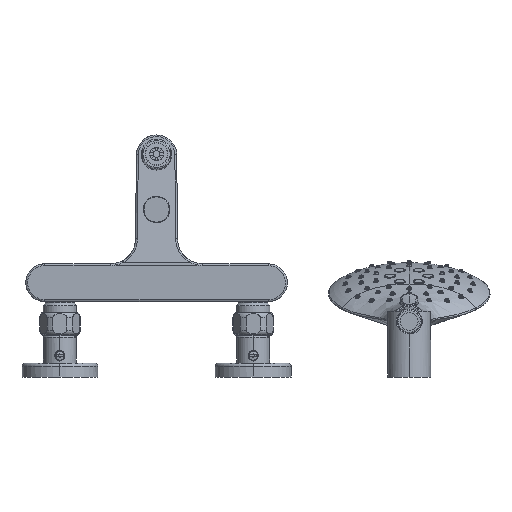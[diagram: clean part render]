
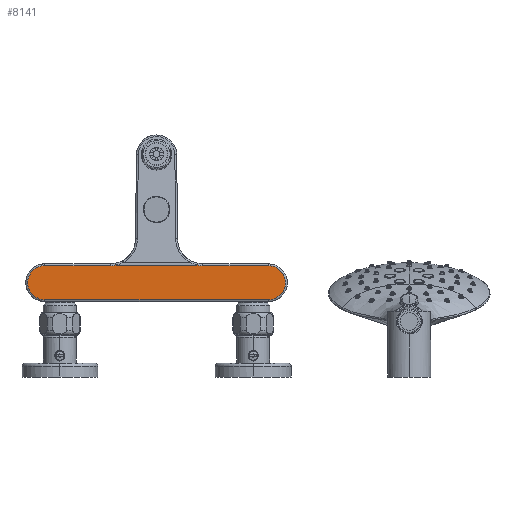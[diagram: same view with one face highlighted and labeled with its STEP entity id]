
A CAD part, front view. The second image highlights one B-rep face of the part: STEP entity #8141.
In plain terms, the highlighted planar face has unit normal (0, -1, 0).
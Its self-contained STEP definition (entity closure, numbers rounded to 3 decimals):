
#1288=CARTESIAN_POINT('',(88.5,-19.,-6.));
#1289=DIRECTION('',(0.,1.,0.));
#1290=DIRECTION('',(0.,0.,1.));
#1291=AXIS2_PLACEMENT_3D('',#1288,#1289,#1290);
#1293=CARTESIAN_POINT('',(88.5,-19.,-6.));
#1294=DIRECTION('',(0.,1.,0.));
#1295=DIRECTION('',(0.037,0.,0.999));
#1296=AXIS2_PLACEMENT_3D('',#1293,#1294,#1295);
#1298=CARTESIAN_POINT('',(-88.5,-19.,-6.));
#1299=DIRECTION('',(0.,1.,0.));
#1300=DIRECTION('',(0.,0.,-1.));
#1301=AXIS2_PLACEMENT_3D('',#1298,#1299,#1300);
#1303=CARTESIAN_POINT('',(-88.5,-19.,-6.));
#1304=DIRECTION('',(0.,1.,0.));
#1305=DIRECTION('',(-0.037,0.,-0.999));
#1306=AXIS2_PLACEMENT_3D('',#1303,#1304,#1305);
#1308=CARTESIAN_POINT('',(-36.578,-19.,29.));
#1309=DIRECTION('',(0.,-1.,0.));
#1310=DIRECTION('',(0.,0.,-1.));
#1311=AXIS2_PLACEMENT_3D('',#1308,#1309,#1310);
#1313=CARTESIAN_POINT('',(36.578,-19.,29.));
#1314=DIRECTION('',(0.,-1.,0.));
#1315=DIRECTION('',(-0.215,0.,-0.977));
#1316=AXIS2_PLACEMENT_3D('',#1313,#1314,#1315);
#1318=DIRECTION('',(1.,0.,0.));
#1319=VECTOR('',#1318,177.);
#1320=CARTESIAN_POINT('',(-88.5,-19.,-19.5));
#1321=LINE('',#1320,#1319);
#1458=DIRECTION('',(-1.,0.,0.));
#1459=VECTOR('',#1458,51.922);
#1460=CARTESIAN_POINT('',(88.5,-19.,7.5));
#1461=LINE('',#1460,#1459);
#1488=DIRECTION('',(-1.,0.,0.));
#1489=VECTOR('',#1488,63.891);
#1490=CARTESIAN_POINT('',(31.946,-19.,8.005));
#1491=LINE('',#1490,#1489);
#1524=DIRECTION('',(-1.,0.,0.));
#1525=VECTOR('',#1524,51.922);
#1526=CARTESIAN_POINT('',(-36.578,-19.,7.5));
#1527=LINE('',#1526,#1525);
#5376=CARTESIAN_POINT('',(89.001,-19.,7.491));
#5377=CARTESIAN_POINT('',(88.5,-19.,-19.5));
#5378=VERTEX_POINT('',#5376);
#5379=VERTEX_POINT('',#5377);
#5380=CARTESIAN_POINT('',(88.5,-19.,7.5));
#5381=VERTEX_POINT('',#5380);
#5382=CARTESIAN_POINT('',(-88.5,-19.,-19.5));
#5383=VERTEX_POINT('',#5382);
#5384=CARTESIAN_POINT('',(-89.001,-19.,-19.491));
#5385=CARTESIAN_POINT('',(-88.5,-19.,7.5));
#5386=VERTEX_POINT('',#5384);
#5387=VERTEX_POINT('',#5385);
#5388=CARTESIAN_POINT('',(-36.578,-19.,7.5));
#5389=VERTEX_POINT('',#5388);
#5390=CARTESIAN_POINT('',(-31.946,-19.,8.005));
#5391=VERTEX_POINT('',#5390);
#5392=CARTESIAN_POINT('',(31.946,-19.,8.005));
#5393=VERTEX_POINT('',#5392);
#5394=CARTESIAN_POINT('',(36.578,-19.,7.5));
#5395=VERTEX_POINT('',#5394);
#8116=CARTESIAN_POINT('',(0.,-19.,0.));
#8117=DIRECTION('',(0.,1.,0.));
#8118=DIRECTION('',(1.,0.,0.));
#8119=AXIS2_PLACEMENT_3D('',#8116,#8117,#8118);
#8120=PLANE('',#8119);
#8121=ORIENTED_EDGE('',*,*,#8105,.T.);
#8122=ORIENTED_EDGE('',*,*,#8103,.T.);
#8124=ORIENTED_EDGE('',*,*,#8123,.F.);
#8126=ORIENTED_EDGE('',*,*,#8125,.T.);
#8128=ORIENTED_EDGE('',*,*,#8127,.T.);
#8130=ORIENTED_EDGE('',*,*,#8129,.F.);
#8132=ORIENTED_EDGE('',*,*,#8131,.T.);
#8134=ORIENTED_EDGE('',*,*,#8133,.F.);
#8136=ORIENTED_EDGE('',*,*,#8135,.T.);
#8138=ORIENTED_EDGE('',*,*,#8137,.F.);
#8139=EDGE_LOOP('',(#8121,#8122,#8124,#8126,#8128,#8130,#8132,#8134,#8136,
#8138));
#8140=FACE_OUTER_BOUND('',#8139,.F.);
#8141=ADVANCED_FACE('',(#8140),#8120,.F.);
#1292=CIRCLE('',#1291,13.5);
#1297=CIRCLE('',#1296,13.5);
#1302=CIRCLE('',#1301,13.5);
#1307=CIRCLE('',#1306,13.5);
#1312=CIRCLE('',#1311,21.5);
#1317=CIRCLE('',#1316,21.5);
#8103=EDGE_CURVE('',#5378,#5379,#1297,.T.);
#8105=EDGE_CURVE('',#5381,#5378,#1292,.T.);
#8123=EDGE_CURVE('',#5383,#5379,#1321,.T.);
#8125=EDGE_CURVE('',#5383,#5386,#1302,.T.);
#8127=EDGE_CURVE('',#5386,#5387,#1307,.T.);
#8129=EDGE_CURVE('',#5389,#5387,#1527,.T.);
#8131=EDGE_CURVE('',#5389,#5391,#1312,.T.);
#8133=EDGE_CURVE('',#5393,#5391,#1491,.T.);
#8135=EDGE_CURVE('',#5393,#5395,#1317,.T.);
#8137=EDGE_CURVE('',#5381,#5395,#1461,.T.);
